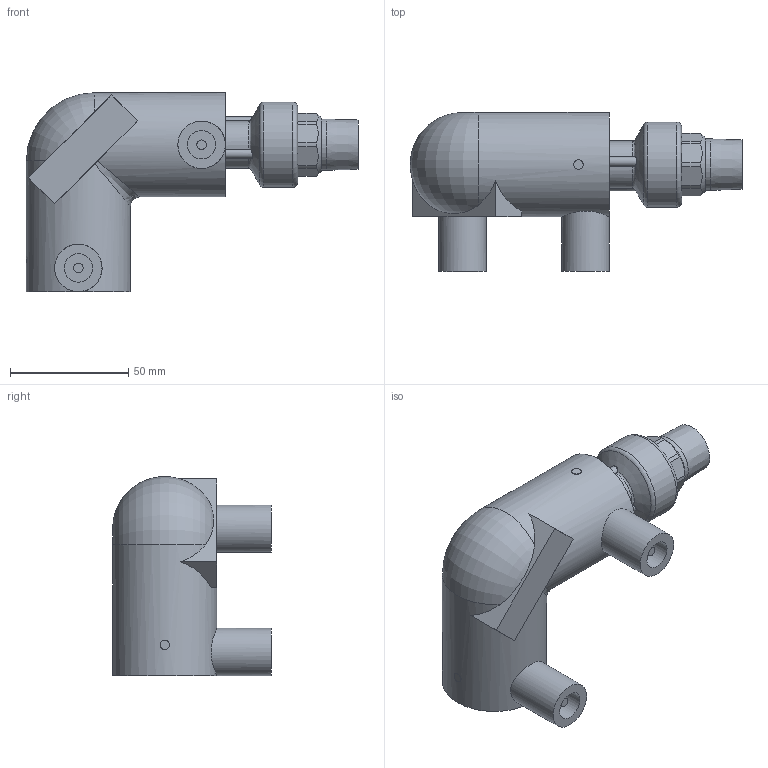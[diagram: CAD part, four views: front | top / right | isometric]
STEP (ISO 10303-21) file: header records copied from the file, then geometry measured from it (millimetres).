
FILE_DESCRIPTION(/* description */ ('Unknown'),/* implementation_level */ '2;1');
FILE_NAME(/* name */ 'GE9TMP020C',/* time_stamp */ '2021-03-02T15:11:09+01:00',/* author */ ('Unknown'),/* organization */ ('Unknown'),/* preprocessor_version */ 'ST-DEVELOPER v16.7',/* originating_system */ 'Solid Edge',/* authorisation */ 'Unknown');
FILE_SCHEMA (('AUTOMOTIVE_DESIGN {1 0 10303 214 3 1 1}'));
Length unit declared in the file: millimetre
Products named in the file (5): GE9TMP020C; GE9P020C ; RTOMP020C; Parte PE 020; IOM020C
Assembly tree (4 placements, depth 3):
  GE9TMP020C
    GE9P020C 
    RTOMP020C
      Parte PE 020
      IOM020C
Bounding box: 140.1 x 67 x 84.1 mm (x, y, z)
Volume: 189778.5 mm3; surface area: 49289.2 mm2
Topology: 3 solids, 3 shells, 203 faces, 491 edges, 319 vertices
Faces by surface type: plane 115, cylinder 54, bspline 16, torus 14, cone 4
Full cylindrical faces by diameter (mm): 4 x4, 12 x2, 14 x1, 14.5 x1, 17 x2, 18.5 x2, 20 x5, 21.5 x2, 21.7 x1, 25 x4, 26.4 x2, 29 x8, 36 x1, 44 x2
Entity records: 6526 total; most frequent: CARTESIAN_POINT 1405, DIRECTION 966, ORIENTED_EDGE 858, EDGE_CURVE 429, AXIS2_PLACEMENT_3D 396, VERTEX_POINT 301, EDGE_LOOP 278, FACE_BOUND 278
